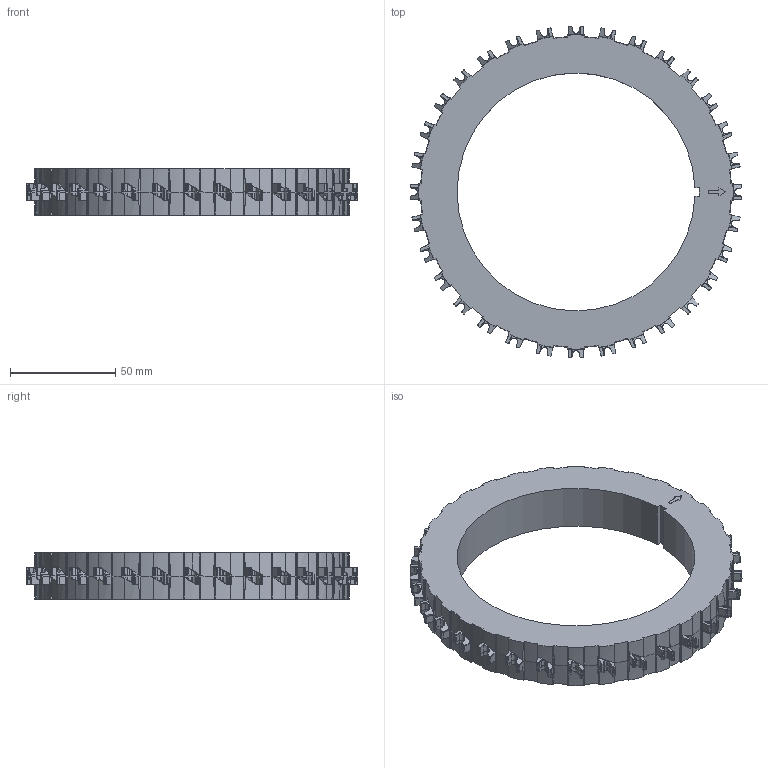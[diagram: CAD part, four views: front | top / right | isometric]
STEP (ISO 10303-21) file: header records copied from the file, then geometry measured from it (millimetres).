
FILE_DESCRIPTION (( 'STEP AP214' ), '1' );
FILE_NAME ('HS-1100-32T.STEP', '2022-06-10T00:43:26', ( 'admin' ), ( '' ), 'SwSTEP 2.0', 'SolidWorks 2018', '' );
FILE_SCHEMA (( 'AUTOMOTIVE_DESIGN' ));
Length unit declared in the file: millimetre
Products named in the file (1): HS-1100-32T
Bounding box: 157.95 x 157.95 x 22.4 mm (x, y, z)
Volume: 164201.7 mm3; surface area: 36998.2 mm2
Topology: 1 solids, 1 shells, 1539 faces, 3987 edges, 2452 vertices
Faces by surface type: cone 748, plane 725, cylinder 66
Entity records: 52032 total; most frequent: CARTESIAN_POINT 18418, ORIENTED_EDGE 7974, DIRECTION 5507, EDGE_CURVE 3987, VERTEX_POINT 2452, B_SPLINE_CURVE_WITH_KNOTS 2020, AXIS2_PLACEMENT_3D 2001, EDGE_LOOP 1543
